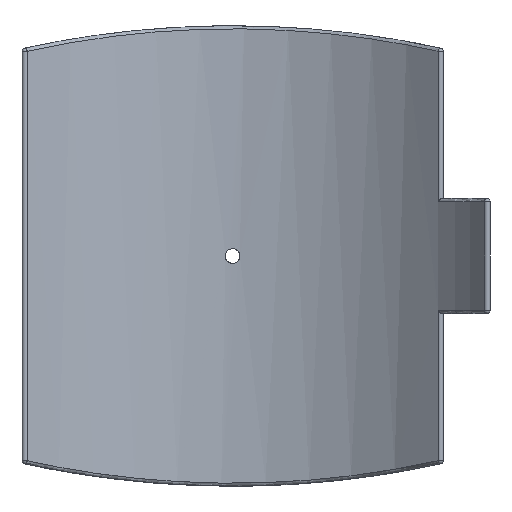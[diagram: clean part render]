
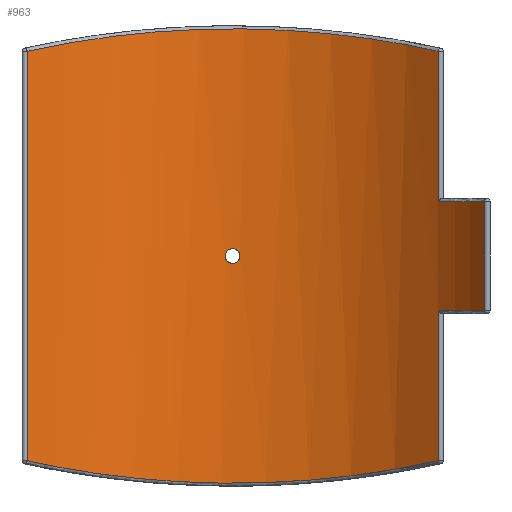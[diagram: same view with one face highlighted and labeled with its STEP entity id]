
A CAD part, front view. The second image highlights one B-rep face of the part: STEP entity #963.
In plain terms, the highlighted cylindrical face has radius 202.3 mm (diameter 404.6 mm), a partial arc.
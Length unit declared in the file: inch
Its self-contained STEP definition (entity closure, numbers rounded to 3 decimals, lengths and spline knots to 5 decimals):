
#45=B_SPLINE_CURVE_WITH_KNOTS('',3,(#1814,#1815,#1816,#1817,#1818,#1819,
#1820,#1821,#1822,#1823,#1824,#1825,#1826,#1827,#1828,#1829,#1830,#1831,
#1832,#1833,#1834,#1835,#1836,#1837,#1838,#1839,#1840,#1841,#1842,#1843,
#1844,#1845,#1846,#1847),.UNSPECIFIED.,.T.,.F.,(4,2,2,2,2,2,2,2,2,2,2,2,
2,2,2,2,4),(0.,0.18082,0.36163,0.54245,0.72327,
0.90408,1.0849,1.26572,1.44654,1.62735,
1.80817,1.98899,2.1698,2.35062,2.53144,
2.71225,2.89307),.UNSPECIFIED.);
#51=B_SPLINE_CURVE_WITH_KNOTS('',3,(#2207,#2208,#2209,#2210,#2211,#2212,
#2213,#2214,#2215,#2216),.UNSPECIFIED.,.F.,.F.,(4,1,1,1,1,1,1,4),(-35.25617,
-31.01186,-26.76756,-22.52325,-18.27895,
-14.03464,-9.79034,-5.54603),.UNSPECIFIED.);
#57=B_SPLINE_CURVE_WITH_KNOTS('',3,(#2361,#2362,#2363,#2364,#2365,#2366,
#2367,#2368,#2369,#2370),.UNSPECIFIED.,.F.,.F.,(4,1,1,1,1,1,1,4),(-33.31318,
-29.06887,-24.82457,-20.58026,-16.33596,
-12.09165,-7.84735,-3.60304),.UNSPECIFIED.);
#78=LINE('',#2136,#118);
#82=LINE('',#2231,#122);
#89=LINE('',#2268,#129);
#94=LINE('',#2391,#134);
#118=VECTOR('',#1327,0.3937);
#122=VECTOR('',#1343,0.3937);
#129=VECTOR('',#1366,0.3937);
#134=VECTOR('',#1391,0.3937);
#166=CYLINDRICAL_SURFACE('',#1114,7.96457);
#177=FACE_BOUND('',#332,.T.);
#255=FACE_OUTER_BOUND('',#331,.T.);
#331=EDGE_LOOP('',(#875,#876,#877,#878,#879,#880,#881,#882));
#332=EDGE_LOOP('',(#883));
#398=CIRCLE('',#1089,7.96457);
#401=CIRCLE('',#1097,7.96457);
#433=VERTEX_POINT('',#1812);
#451=VERTEX_POINT('',#1949);
#456=VERTEX_POINT('',#2025);
#465=VERTEX_POINT('',#2051);
#466=VERTEX_POINT('',#2055);
#471=VERTEX_POINT('',#2128);
#476=VERTEX_POINT('',#2144);
#478=VERTEX_POINT('',#2230);
#482=VERTEX_POINT('',#2272);
#520=EDGE_CURVE('',#433,#433,#45,.T.);
#580=EDGE_CURVE('',#471,#465,#78,.T.);
#586=EDGE_CURVE('',#466,#476,#51,.T.);
#589=EDGE_CURVE('',#476,#478,#82,.T.);
#592=EDGE_CURVE('',#478,#471,#398,.T.);
#601=EDGE_CURVE('',#456,#466,#89,.T.);
#603=EDGE_CURVE('',#465,#482,#401,.T.);
#611=EDGE_CURVE('',#451,#456,#57,.T.);
#615=EDGE_CURVE('',#482,#451,#94,.T.);
#875=ORIENTED_EDGE('',*,*,#586,.F.);
#876=ORIENTED_EDGE('',*,*,#601,.F.);
#877=ORIENTED_EDGE('',*,*,#611,.F.);
#878=ORIENTED_EDGE('',*,*,#615,.F.);
#879=ORIENTED_EDGE('',*,*,#603,.F.);
#880=ORIENTED_EDGE('',*,*,#580,.F.);
#881=ORIENTED_EDGE('',*,*,#592,.F.);
#882=ORIENTED_EDGE('',*,*,#589,.F.);
#883=ORIENTED_EDGE('',*,*,#520,.T.);
#963=ADVANCED_FACE('',(#255,#177),#166,.F.);
#1089=AXIS2_PLACEMENT_3D('',#2247,#1348,#1349);
#1097=AXIS2_PLACEMENT_3D('',#2273,#1371,#1372);
#1114=AXIS2_PLACEMENT_3D('',#2407,#1415,#1416);
#1327=DIRECTION('',(0.,0.,-1.));
#1343=DIRECTION('',(0.,0.,-1.));
#1348=DIRECTION('center_axis',(0.,0.,-1.));
#1349=DIRECTION('ref_axis',(0.758,0.652,0.));
#1366=DIRECTION('',(0.,0.,1.));
#1371=DIRECTION('center_axis',(0.,0.,1.));
#1372=DIRECTION('ref_axis',(0.758,0.652,0.));
#1391=DIRECTION('',(0.,0.,-1.));
#1415=DIRECTION('center_axis',(0.,0.,1.));
#1416=DIRECTION('ref_axis',(-1.,0.,0.));
#1812=CARTESIAN_POINT('',(0.18898,7.96232,0.));
#1814=CARTESIAN_POINT('Ctrl Pts',(0.18898,7.96232,0.));
#1815=CARTESIAN_POINT('Ctrl Pts',(0.18898,7.96232,-0.02373));
#1816=CARTESIAN_POINT('Ctrl Pts',(0.18423,7.96244,-0.04904));
#1817=CARTESIAN_POINT('Ctrl Pts',(0.16495,7.96286,-0.0956));
#1818=CARTESIAN_POINT('Ctrl Pts',(0.1504,7.96316,-0.11685));
#1819=CARTESIAN_POINT('Ctrl Pts',(0.11685,7.96373,-0.1504));
#1820=CARTESIAN_POINT('Ctrl Pts',(0.0956,7.96403,-0.16495));
#1821=CARTESIAN_POINT('Ctrl Pts',(0.04904,7.96445,-0.18423));
#1822=CARTESIAN_POINT('Ctrl Pts',(0.02373,7.96457,-0.18898));
#1823=CARTESIAN_POINT('Ctrl Pts',(-0.02373,7.96457,
-0.18898));
#1824=CARTESIAN_POINT('Ctrl Pts',(-0.04904,7.96445,
-0.18423));
#1825=CARTESIAN_POINT('Ctrl Pts',(-0.0956,7.96403,
-0.16495));
#1826=CARTESIAN_POINT('Ctrl Pts',(-0.11685,7.96373,-0.1504));
#1827=CARTESIAN_POINT('Ctrl Pts',(-0.1504,7.96316,-0.11685));
#1828=CARTESIAN_POINT('Ctrl Pts',(-0.16495,7.96286,-0.0956));
#1829=CARTESIAN_POINT('Ctrl Pts',(-0.18423,7.96244,-0.04904));
#1830=CARTESIAN_POINT('Ctrl Pts',(-0.18898,7.96232,-0.02373));
#1831=CARTESIAN_POINT('Ctrl Pts',(-0.18898,7.96232,0.02373));
#1832=CARTESIAN_POINT('Ctrl Pts',(-0.18423,7.96244,0.04904));
#1833=CARTESIAN_POINT('Ctrl Pts',(-0.16495,7.96286,0.0956));
#1834=CARTESIAN_POINT('Ctrl Pts',(-0.1504,7.96316,0.11685));
#1835=CARTESIAN_POINT('Ctrl Pts',(-0.11685,7.96373,0.1504));
#1836=CARTESIAN_POINT('Ctrl Pts',(-0.0956,7.96403,
0.16495));
#1837=CARTESIAN_POINT('Ctrl Pts',(-0.04904,7.96445,
0.18423));
#1838=CARTESIAN_POINT('Ctrl Pts',(-0.02373,7.96457,
0.18898));
#1839=CARTESIAN_POINT('Ctrl Pts',(0.02373,7.96457,0.18898));
#1840=CARTESIAN_POINT('Ctrl Pts',(0.04904,7.96445,0.18423));
#1841=CARTESIAN_POINT('Ctrl Pts',(0.0956,7.96403,0.16495));
#1842=CARTESIAN_POINT('Ctrl Pts',(0.11685,7.96373,0.1504));
#1843=CARTESIAN_POINT('Ctrl Pts',(0.1504,7.96316,0.11685));
#1844=CARTESIAN_POINT('Ctrl Pts',(0.16495,7.96286,0.0956));
#1845=CARTESIAN_POINT('Ctrl Pts',(0.18423,7.96244,0.04904));
#1846=CARTESIAN_POINT('Ctrl Pts',(0.18898,7.96232,0.02373));
#1847=CARTESIAN_POINT('Ctrl Pts',(0.18898,7.96232,0.));
#1949=CARTESIAN_POINT('',(5.26768,5.97377,-5.25047));
#2025=CARTESIAN_POINT('',(-5.26768,5.97377,-5.25047));
#2051=CARTESIAN_POINT('',(6.4558,4.66444,-1.3966));
#2055=CARTESIAN_POINT('',(-5.26768,5.97377,5.25047));
#2128=CARTESIAN_POINT('',(6.4558,4.66444,1.3966));
#2136=CARTESIAN_POINT('',(6.4558,4.66444,0.));
#2144=CARTESIAN_POINT('',(5.26768,5.97377,5.25047));
#2207=CARTESIAN_POINT('Ctrl Pts',(-5.26768,5.97377,5.25047));
#2208=CARTESIAN_POINT('Ctrl Pts',(-4.85951,6.33369,5.34061));
#2209=CARTESIAN_POINT('Ctrl Pts',(-3.96838,6.97042,5.51529));
#2210=CARTESIAN_POINT('Ctrl Pts',(-2.45714,7.63604,5.71872));
#2211=CARTESIAN_POINT('Ctrl Pts',(-0.83218,7.9788,5.82994));
#2212=CARTESIAN_POINT('Ctrl Pts',(0.8322,7.97886,5.82999));
#2213=CARTESIAN_POINT('Ctrl Pts',(2.45713,7.63599,5.71867));
#2214=CARTESIAN_POINT('Ctrl Pts',(3.96837,6.97045,5.51532));
#2215=CARTESIAN_POINT('Ctrl Pts',(4.8595,6.3337,5.34062));
#2216=CARTESIAN_POINT('Ctrl Pts',(5.26768,5.97377,5.25047));
#2230=CARTESIAN_POINT('',(5.26768,5.97377,1.3966));
#2231=CARTESIAN_POINT('',(5.26768,5.97377,0.));
#2247=CARTESIAN_POINT('Origin',(0.,0.,1.3966));
#2268=CARTESIAN_POINT('',(-5.26768,5.97377,0.));
#2272=CARTESIAN_POINT('',(5.26768,5.97377,-1.3966));
#2273=CARTESIAN_POINT('Origin',(0.,0.,-1.3966));
#2361=CARTESIAN_POINT('Ctrl Pts',(5.26768,5.97377,-5.25047));
#2362=CARTESIAN_POINT('Ctrl Pts',(4.8595,6.3337,-5.34062));
#2363=CARTESIAN_POINT('Ctrl Pts',(3.96835,6.97043,-5.51529));
#2364=CARTESIAN_POINT('Ctrl Pts',(2.45715,7.63603,-5.71871));
#2365=CARTESIAN_POINT('Ctrl Pts',(0.83218,7.9788,-5.82994));
#2366=CARTESIAN_POINT('Ctrl Pts',(-0.8322,7.97885,-5.82999));
#2367=CARTESIAN_POINT('Ctrl Pts',(-2.45712,7.63599,-5.71867));
#2368=CARTESIAN_POINT('Ctrl Pts',(-3.96839,6.97044,-5.51531));
#2369=CARTESIAN_POINT('Ctrl Pts',(-4.85951,6.33369,-5.34061));
#2370=CARTESIAN_POINT('Ctrl Pts',(-5.26768,5.97377,-5.25047));
#2391=CARTESIAN_POINT('',(5.26768,5.97377,0.));
#2407=CARTESIAN_POINT('Origin',(0.,0.,0.));
